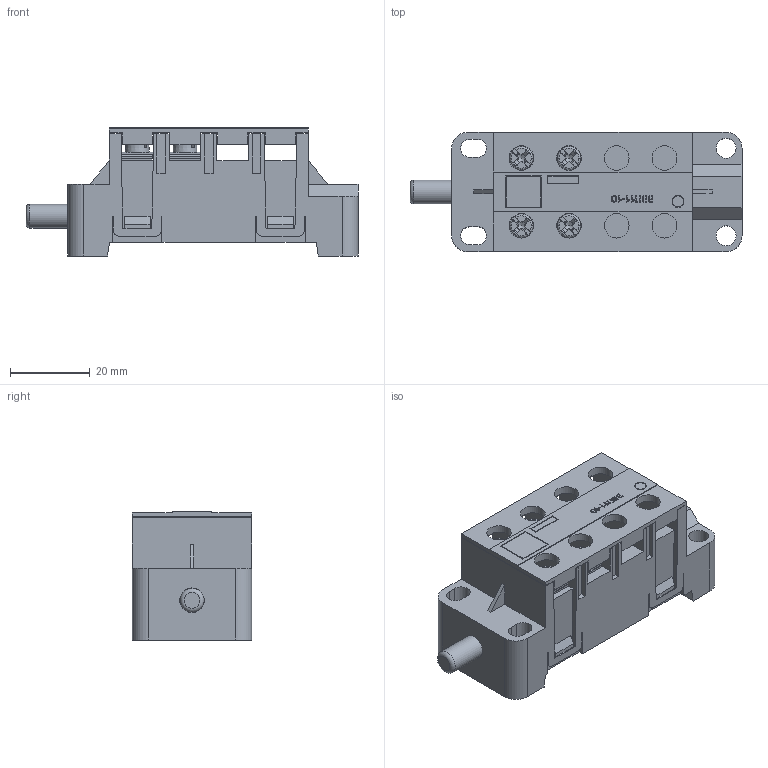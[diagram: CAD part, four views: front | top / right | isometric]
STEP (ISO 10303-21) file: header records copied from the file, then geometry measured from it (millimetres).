
FILE_DESCRIPTION(('STEP AP214'), '1');
FILE_NAME('栖闉罻', '', ('UNSPECIFIED'), ('UNSPECIFIED'), 'ASCON STEP Converter 1.6', 'ASCON Math Kernel', '');
FILE_SCHEMA(('AUTOMOTIVE_DESIGN { 1 0 10303 214 3 1 1}'));
Length unit declared in the file: millimetre
Bounding box: 83.5 x 30 x 32.2 mm (x, y, z)
Volume: 46406.5 mm3; surface area: 17755.7 mm2
Topology: 10 solids, 10 shells, 567 faces, 1530 edges, 1005 vertices
Faces by surface type: plane 419, cylinder 67, bspline 40, torus 21, cone 12, extrusion 8
Full cylindrical faces by diameter (mm): 2.45 x4, 2.8 x1, 3 x1, 3.1 x8, 5 x2, 6 x1, 6.2 x10
Entity records: 30682 total; most frequent: CARTESIAN_POINT 12346, ORIENTED_EDGE 2984, DIRECTION 2475, EDGE_CURVE 1492, VECTOR 1053, LINE 1045, VERTEX_POINT 1005, AXIS2_PLACEMENT_3D 711
